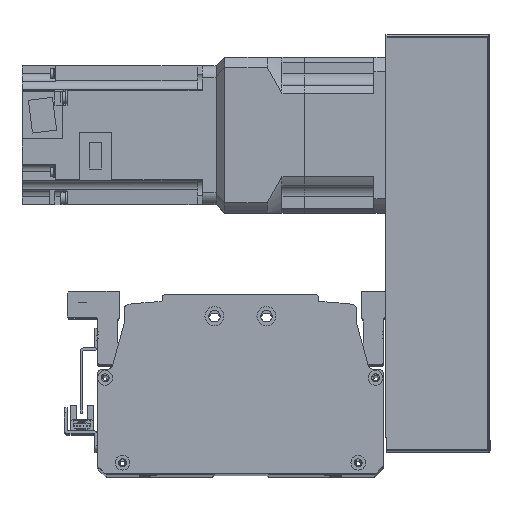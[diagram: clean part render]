
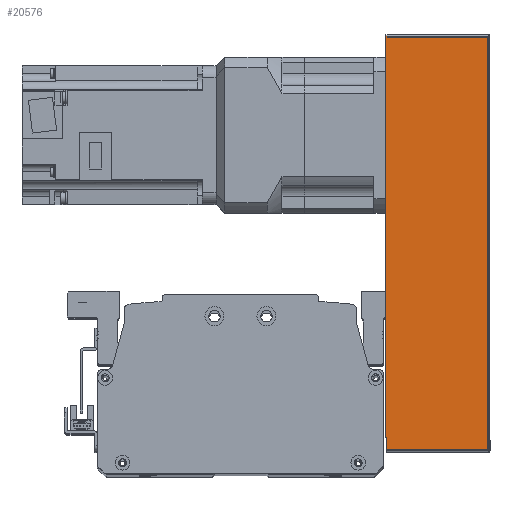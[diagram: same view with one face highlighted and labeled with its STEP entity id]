
A CAD part, top view. The second image highlights one B-rep face of the part: STEP entity #20576.
In plain terms, the highlighted planar face has unit normal (0, 0, 1) as drawn and (0, -1, 0) by its records, which use the part's own axes.
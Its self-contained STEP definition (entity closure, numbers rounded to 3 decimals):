
#554=PLANE('',#22412);
#1672=LINE('',#32653,#3332);
#1698=LINE('',#32749,#3358);
#1699=LINE('',#32757,#3359);
#1706=LINE('',#32782,#3366);
#3332=VECTOR('',#26543,10.);
#3358=VECTOR('',#26661,10.);
#3359=VECTOR('',#26672,10.);
#3366=VECTOR('',#26707,10.);
#5335=FACE_OUTER_BOUND('',#6747,.T.);
#6747=EDGE_LOOP('',(#16168,#16169,#16170,#16171));
#9581=VERTEX_POINT('',#32650);
#9582=VERTEX_POINT('',#32652);
#9606=VERTEX_POINT('',#32745);
#9607=VERTEX_POINT('',#32751);
#11924=EDGE_CURVE('',#9582,#9581,#1672,.T.);
#11974=EDGE_CURVE('',#9581,#9606,#1698,.T.);
#11978=EDGE_CURVE('',#9607,#9582,#1699,.T.);
#11991=EDGE_CURVE('',#9606,#9607,#1706,.T.);
#16168=ORIENTED_EDGE('',*,*,#11974,.T.);
#16169=ORIENTED_EDGE('',*,*,#11991,.T.);
#16170=ORIENTED_EDGE('',*,*,#11978,.T.);
#16171=ORIENTED_EDGE('',*,*,#11924,.T.);
#20576=ADVANCED_FACE('',(#5335),#554,.F.);
#22412=AXIS2_PLACEMENT_3D('',#32788,#26717,#26718);
#26543=DIRECTION('',(1.,0.,0.));
#26661=DIRECTION('',(0.,0.,1.));
#26672=DIRECTION('',(0.,0.,-1.));
#26707=DIRECTION('',(-1.,0.,0.));
#26717=DIRECTION('center_axis',(0.,1.,0.));
#26718=DIRECTION('ref_axis',(1.,0.,0.));
#32650=CARTESIAN_POINT('',(119.5,-51.,-30.));
#32652=CARTESIAN_POINT('',(-119.5,-51.,-30.));
#32653=CARTESIAN_POINT('',(120.5,-51.,-30.));
#32745=CARTESIAN_POINT('',(119.5,-51.,29.));
#32749=CARTESIAN_POINT('',(119.5,-51.,0.));
#32751=CARTESIAN_POINT('',(-119.5,-51.,29.));
#32757=CARTESIAN_POINT('',(-119.5,-51.,0.));
#32782=CARTESIAN_POINT('',(-60.25,-51.,29.));
#32788=CARTESIAN_POINT('Origin',(-120.5,-51.,0.));
